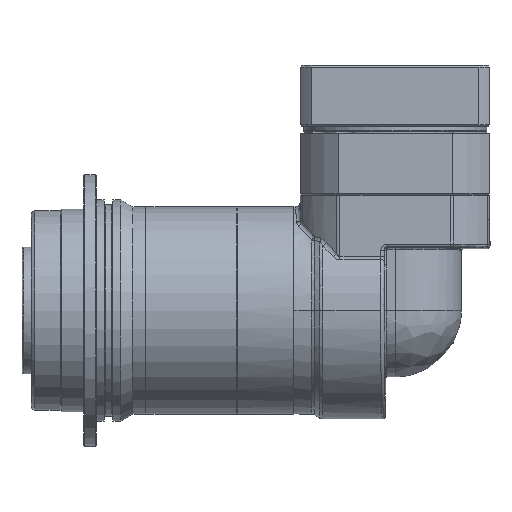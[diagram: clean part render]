
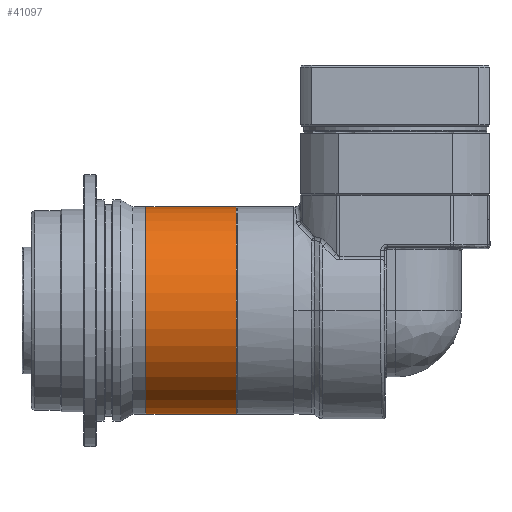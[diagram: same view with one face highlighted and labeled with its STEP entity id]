
A CAD part, front view. The second image highlights one B-rep face of the part: STEP entity #41097.
In plain terms, the highlighted cylindrical face has radius 32.75 mm (diameter 65.5 mm), a partial arc.
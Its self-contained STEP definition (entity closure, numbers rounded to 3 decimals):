
#5932 = CARTESIAN_POINT ( 'NONE',  ( -115.265, -26.92, 52.831 ) ) ;
#8691 = VERTEX_POINT ( 'NONE', #37078 ) ;
#9596 = CARTESIAN_POINT ( 'NONE',  ( -86.665, -26.92, 52.831 ) ) ;
#10230 = VERTEX_POINT ( 'NONE', #10825 ) ;
#10808 = DIRECTION ( 'NONE',  ( 0., 0., -1. ) ) ;
#10825 = CARTESIAN_POINT ( 'NONE',  ( -115.265, -26.92, 85.581 ) ) ;
#11014 = DIRECTION ( 'NONE',  ( -1., 0., 0. ) ) ;
#11196 = VECTOR ( 'NONE', #54766, 1000. ) ;
#11557 = ORIENTED_EDGE ( 'NONE', *, *, #49354, .F. ) ;
#12288 = EDGE_CURVE ( 'NONE', #8691, #10230, #19966, .T. ) ;
#12328 = EDGE_LOOP ( 'NONE', ( #11557, #43443, #22769, #38417 ) ) ;
#15130 = AXIS2_PLACEMENT_3D ( 'NONE', #9596, #28285, #46963 ) ;
#17004 = AXIS2_PLACEMENT_3D ( 'NONE', #35200, #11014, #39201 ) ;
#19966 = LINE ( 'NONE', #38657, #54337 ) ;
#21185 = EDGE_CURVE ( 'NONE', #38829, #10230, #46939, .T. ) ;
#22184 = VERTEX_POINT ( 'NONE', #22728 ) ;
#22555 = CYLINDRICAL_SURFACE ( 'NONE', #17004, 32.75 ) ;
#22728 = CARTESIAN_POINT ( 'NONE',  ( -86.665, -26.92, 20.081 ) ) ;
#22769 = ORIENTED_EDGE ( 'NONE', *, *, #12288, .T. ) ;
#28285 = DIRECTION ( 'NONE',  ( -1., 0., 0. ) ) ;
#28360 = AXIS2_PLACEMENT_3D ( 'NONE', #5932, #52772, #10808 ) ;
#29708 = FACE_OUTER_BOUND ( 'NONE', #12328, .T. ) ;
#34873 = CARTESIAN_POINT ( 'NONE',  ( -118.465, -26.92, 20.081 ) ) ;
#35200 = CARTESIAN_POINT ( 'NONE',  ( -118.465, -26.92, 52.831 ) ) ;
#37078 = CARTESIAN_POINT ( 'NONE',  ( -86.665, -26.92, 85.581 ) ) ;
#38417 = ORIENTED_EDGE ( 'NONE', *, *, #21185, .F. ) ;
#38627 = CIRCLE ( 'NONE', #15130, 32.75 ) ;
#38657 = CARTESIAN_POINT ( 'NONE',  ( -118.465, -26.92, 85.581 ) ) ;
#38829 = VERTEX_POINT ( 'NONE', #57626 ) ;
#39201 = DIRECTION ( 'NONE',  ( 0., 0., 1. ) ) ;
#41097 = ADVANCED_FACE ( 'NONE', ( #29708 ), #22555, .T. ) ;
#41578 = EDGE_CURVE ( 'NONE', #22184, #8691, #38627, .T. ) ;
#43443 = ORIENTED_EDGE ( 'NONE', *, *, #41578, .T. ) ;
#46939 = CIRCLE ( 'NONE', #28360, 32.75 ) ;
#46963 = DIRECTION ( 'NONE',  ( 0., 0., 1. ) ) ;
#49354 = EDGE_CURVE ( 'NONE', #22184, #38829, #59035, .T. ) ;
#52772 = DIRECTION ( 'NONE',  ( -1., 0., 0. ) ) ;
#54337 = VECTOR ( 'NONE', #57317, 1000. ) ;
#54766 = DIRECTION ( 'NONE',  ( -1., 0., 0. ) ) ;
#57317 = DIRECTION ( 'NONE',  ( -1., 0., 0. ) ) ;
#57626 = CARTESIAN_POINT ( 'NONE',  ( -115.265, -26.92, 20.081 ) ) ;
#59035 = LINE ( 'NONE', #34873, #11196 ) ;
